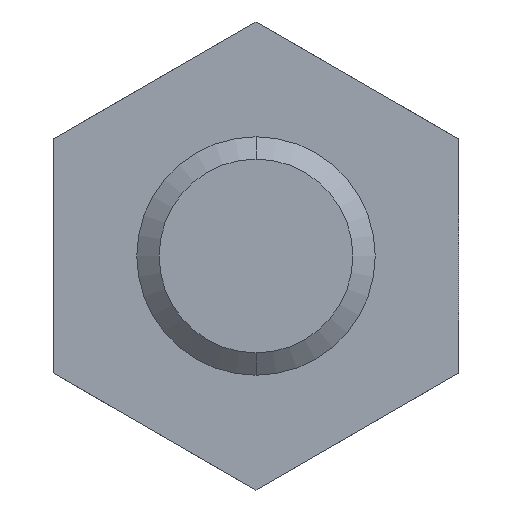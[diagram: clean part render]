
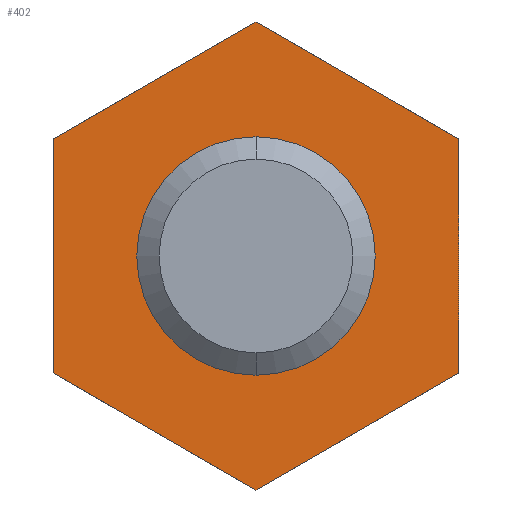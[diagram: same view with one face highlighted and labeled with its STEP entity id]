
A CAD part, front view. The second image highlights one B-rep face of the part: STEP entity #402.
In plain terms, the highlighted planar face has unit normal (0, -1, 0).
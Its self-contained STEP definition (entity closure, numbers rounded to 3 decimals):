
#47 = VERTEX_POINT ( 'NONE', #1005 ) ;
#53 = VERTEX_POINT ( 'NONE', #1045 ) ;
#56 = EDGE_CURVE ( 'NONE', #53, #47, #1044, .T. ) ;
#198 = VERTEX_POINT ( 'NONE', #1279 ) ;
#200 = EDGE_CURVE ( 'NONE', #201, #198, #1337, .T. ) ;
#201 = VERTEX_POINT ( 'NONE', #1332 ) ;
#281 = VERTEX_POINT ( 'NONE', #1436 ) ;
#283 = EDGE_CURVE ( 'NONE', #47, #281, #1435, .T. ) ;
#298 = EDGE_CURVE ( 'NONE', #281, #348, #1505, .T. ) ;
#300 = VERTEX_POINT ( 'NONE', #1497 ) ;
#326 = ORIENTED_EDGE ( 'NONE', *, *, #200, .T. ) ;
#327 = ORIENTED_EDGE ( 'NONE', *, *, #328, .T. ) ;
#328 = EDGE_CURVE ( 'NONE', #198, #201, #1560, .T. ) ;
#329 = EDGE_LOOP ( 'NONE', ( #385, #386, #387, #388, #389, #390 ) ) ;
#334 = EDGE_CURVE ( 'NONE', #354, #53, #1548, .T. ) ;
#343 = EDGE_CURVE ( 'NONE', #348, #300, #1591, .T. ) ;
#348 = VERTEX_POINT ( 'NONE', #1581 ) ;
#354 = VERTEX_POINT ( 'NONE', #1626 ) ;
#365 = EDGE_CURVE ( 'NONE', #300, #354, #1603, .T. ) ;
#385 = ORIENTED_EDGE ( 'NONE', *, *, #56, .T. ) ;
#386 = ORIENTED_EDGE ( 'NONE', *, *, #283, .T. ) ;
#387 = ORIENTED_EDGE ( 'NONE', *, *, #298, .T. ) ;
#388 = ORIENTED_EDGE ( 'NONE', *, *, #343, .T. ) ;
#389 = ORIENTED_EDGE ( 'NONE', *, *, #365, .T. ) ;
#390 = ORIENTED_EDGE ( 'NONE', *, *, #334, .T. ) ;
#402 = ADVANCED_FACE ( 'NONE', ( #1683, #1679 ), #1678, .T. ) ;
#403 = EDGE_LOOP ( 'NONE', ( #326, #327 ) ) ;
#1005 = CARTESIAN_POINT ( 'NONE',  ( 0., 12., 9.815 ) ) ;
#1041 = DIRECTION ( 'NONE',  ( -0.866, 0., 0.5 ) ) ;
#1042 = VECTOR ( 'NONE', #1041, 1000. ) ;
#1043 = CARTESIAN_POINT ( 'NONE',  ( 8.5, 12., 4.907 ) ) ;
#1044 = LINE ( 'NONE', #1043, #1042 ) ;
#1045 = CARTESIAN_POINT ( 'NONE',  ( 8.5, 12., 4.907 ) ) ;
#1279 = CARTESIAN_POINT ( 'NONE',  ( 5., 12., 0. ) ) ;
#1332 = CARTESIAN_POINT ( 'NONE',  ( -5., 12., 0. ) ) ;
#1333 = DIRECTION ( 'NONE',  ( -1., 0., 0. ) ) ;
#1334 = DIRECTION ( 'NONE',  ( 0., 1., 0. ) ) ;
#1335 = CARTESIAN_POINT ( 'NONE',  ( 0., 12., 0. ) ) ;
#1336 = AXIS2_PLACEMENT_3D ( 'NONE', #1335, #1334, #1333 ) ;
#1337 = CIRCLE ( 'NONE', #1336, 5. ) ;
#1432 = DIRECTION ( 'NONE',  ( -0.866, 0., -0.5 ) ) ;
#1433 = VECTOR ( 'NONE', #1432, 1000. ) ;
#1434 = CARTESIAN_POINT ( 'NONE',  ( 0., 12., 9.815 ) ) ;
#1435 = LINE ( 'NONE', #1434, #1433 ) ;
#1436 = CARTESIAN_POINT ( 'NONE',  ( -8.5, 12., 4.907 ) ) ;
#1497 = CARTESIAN_POINT ( 'NONE',  ( 0., 12., -9.815 ) ) ;
#1502 = DIRECTION ( 'NONE',  ( 0., 0., -1. ) ) ;
#1503 = VECTOR ( 'NONE', #1502, 1000. ) ;
#1504 = CARTESIAN_POINT ( 'NONE',  ( -8.5, 12., 4.907 ) ) ;
#1505 = LINE ( 'NONE', #1504, #1503 ) ;
#1546 = VECTOR ( 'NONE', #1600, 1000. ) ;
#1547 = CARTESIAN_POINT ( 'NONE',  ( 8.5, 12., -4.907 ) ) ;
#1548 = LINE ( 'NONE', #1547, #1546 ) ;
#1556 = DIRECTION ( 'NONE',  ( -1., 0., 0. ) ) ;
#1557 = DIRECTION ( 'NONE',  ( 0., 1., 0. ) ) ;
#1558 = CARTESIAN_POINT ( 'NONE',  ( 0., 12., 0. ) ) ;
#1559 = AXIS2_PLACEMENT_3D ( 'NONE', #1558, #1557, #1556 ) ;
#1560 = CIRCLE ( 'NONE', #1559, 5. ) ;
#1581 = CARTESIAN_POINT ( 'NONE',  ( -8.5, 12., -4.907 ) ) ;
#1588 = DIRECTION ( 'NONE',  ( 0.866, 0., -0.5 ) ) ;
#1589 = VECTOR ( 'NONE', #1588, 1000. ) ;
#1590 = CARTESIAN_POINT ( 'NONE',  ( -8.5, 12., -4.907 ) ) ;
#1591 = LINE ( 'NONE', #1590, #1589 ) ;
#1600 = DIRECTION ( 'NONE',  ( 0., 0., 1. ) ) ;
#1601 = VECTOR ( 'NONE', #1662, 1000. ) ;
#1602 = CARTESIAN_POINT ( 'NONE',  ( 0., 12., -9.815 ) ) ;
#1603 = LINE ( 'NONE', #1602, #1601 ) ;
#1626 = CARTESIAN_POINT ( 'NONE',  ( 8.5, 12., -4.907 ) ) ;
#1662 = DIRECTION ( 'NONE',  ( 0.866, 0., 0.5 ) ) ;
#1673 = DIRECTION ( 'NONE',  ( 1., 0., 0. ) ) ;
#1674 = DIRECTION ( 'NONE',  ( 0., -1., 0. ) ) ;
#1675 = CARTESIAN_POINT ( 'NONE',  ( -5., 12., 0. ) ) ;
#1677 = AXIS2_PLACEMENT_3D ( 'NONE', #1675, #1674, #1673 ) ;
#1678 = PLANE ( 'NONE',  #1677 ) ;
#1679 = FACE_OUTER_BOUND ( 'NONE', #329, .T. ) ;
#1683 = FACE_BOUND ( 'NONE', #403, .T. ) ;
